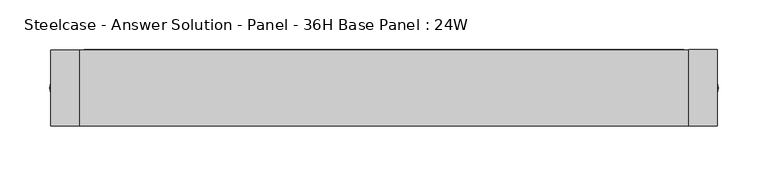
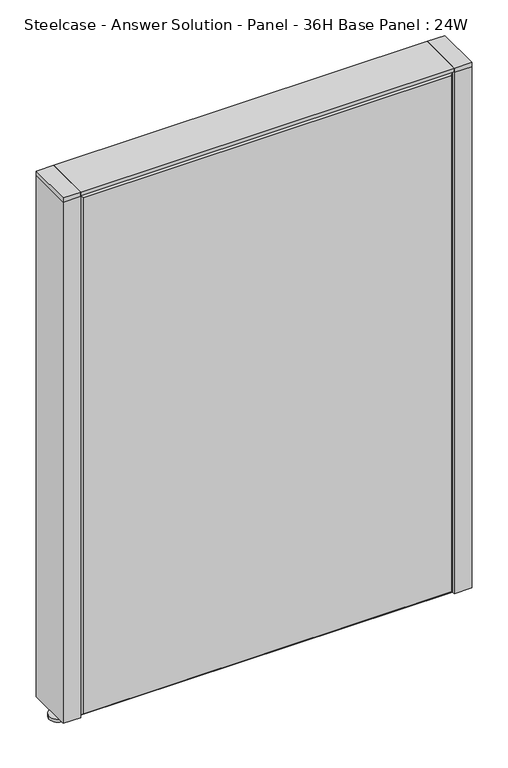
"""IFC4 building model written with IfcOpenShell, lengths in millimetres: furniture geometry, Steelcase - Answer Solution - Panel - 36H Base Panel : 24W."""

from ifc_helpers import new_model, si_unit, point, frame, frame_2d, origin, place, context, project, spatial, polyline, circle_curve, trimmed, segment, composite_curve, outline, extrude, faceted_brep, source, transform, mapped, element, save


def steelcase_answer_solution_panel_36h_base_panel_24w_c0e17bf1(model_context):
    return source(origin(), model_context, "Body", "SolidModel", [
        extrude(outline(composite_curve([segment(trimmed(circle_curve(frame_2d((319.024, 0.0320214)), 5.08), [point((324.104, 0.0320214))], [point((313.944, 0.0320214))], False, "CARTESIAN"), True, "CONTINUOUS"), segment(trimmed(circle_curve(frame_2d((319.024, 0.0320214)), 5.08), [point((313.944, 0.0320214))], [point((324.104, 0.0320214))], False, "CARTESIAN"), True, "CONTINUOUS")], self_intersect=False)), frame((0.0, 0.0, 5.0799671), z_axis=(0.0, 0.0, 1.0), x_axis=(1.0, 0.0, 0.0)), (0.0, 0.0, 1.0), 10.414),
        extrude(outline(composite_curve([segment(trimmed(circle_curve(frame_2d((319.024, 0.0320214)), 15.24), [point((334.264, 0.0320214))], [point((303.784, 0.0320214))], False, "CARTESIAN"), True, "CONTINUOUS"), segment(trimmed(circle_curve(frame_2d((319.024, 0.0320214)), 15.24), [point((303.784, 0.0320214))], [point((334.264, 0.0320214))], False, "CARTESIAN"), True, "CONTINUOUS")], self_intersect=False)), frame((0.0, 0.0, -3.29e-05), z_axis=(0.0, 0.0, 1.0), x_axis=(1.0, 0.0, 0.0)), (0.0, 0.0, 1.0), 5.08),
        extrude(outline(polyline([(333.375, 38.1320408), (333.375, -38.0679592), (304.8, -38.0679592), (304.8, 38.1320408), (333.375, 38.1320408)])), frame((0.0, 0.0, 913.4348), z_axis=(0.0, 0.0, 1.0), x_axis=(1.0, 0.0, 0.0)), (0.0, 0.0, 1.0), 7.3151671),
        extrude(outline(polyline([(333.375, 38.1320408), (333.375, -38.0679592), (304.8, -38.0679592), (304.8, 38.1320408), (333.375, 38.1320408)])), frame((0.0, 0.0, 15.4939671), z_axis=(0.0, 0.0, 1.0), x_axis=(1.0, 0.0, 0.0)), (0.0, 0.0, 1.0), 897.9408329),
        extrude(outline(composite_curve([segment(trimmed(circle_curve(frame_2d((-319.024, -0.0320214)), 5.08), [point((-324.104, -0.0320214))], [point((-313.944, -0.0320214))], False, "CARTESIAN"), True, "CONTINUOUS"), segment(trimmed(circle_curve(frame_2d((-319.024, -0.0320214)), 5.08), [point((-313.944, -0.0320214))], [point((-324.104, -0.0320214))], False, "CARTESIAN"), True, "CONTINUOUS")], self_intersect=False)), frame((0.0, 0.0, 5.0799671), z_axis=(0.0, 0.0, 1.0), x_axis=(1.0, 0.0, 0.0)), (0.0, 0.0, 1.0), 10.414),
        extrude(outline(composite_curve([segment(trimmed(circle_curve(frame_2d((-319.024, -0.0320214)), 15.24), [point((-334.264, -0.0320214))], [point((-303.784, -0.0320214))], False, "CARTESIAN"), True, "CONTINUOUS"), segment(trimmed(circle_curve(frame_2d((-319.024, -0.0320214)), 15.24), [point((-303.784, -0.0320214))], [point((-334.264, -0.0320214))], False, "CARTESIAN"), True, "CONTINUOUS")], self_intersect=False)), frame((0.0, 0.0, -3.29e-05), z_axis=(0.0, 0.0, 1.0), x_axis=(1.0, 0.0, 0.0)), (0.0, 0.0, 1.0), 5.08),
        extrude(outline(polyline([(-333.375, -38.1320408), (-333.375, 38.0679592), (-304.8, 38.0679592), (-304.8, -38.1320408), (-333.375, -38.1320408)])), frame((0.0, 0.0, 913.4348), z_axis=(0.0, 0.0, 1.0), x_axis=(1.0, 0.0, 0.0)), (0.0, 0.0, 1.0), 7.3151671),
        extrude(outline(polyline([(-333.375, -38.1320408), (-333.375, 38.0679592), (-304.8, 38.0679592), (-304.8, -38.1320408), (-333.375, -38.1320408)])), frame((0.0, 0.0, 15.4939671), z_axis=(0.0, 0.0, 1.0), x_axis=(1.0, 0.0, 0.0)), (0.0, 0.0, 1.0), 897.9408329),
        faceted_brep([(299.974, 38.1635011, 909.574), (299.974, 38.1635011, 20.32), (-299.974, 38.1635011, 20.32), (-299.974, 38.1635011, 909.574), (304.8, 33.3375011, 914.4), (-304.8, 33.3375011, 914.4), (-304.8, 33.3375011, 15.494), (304.8, 33.3375011, 15.494)], [[[0, 1, 2, 3]], [[4, 5, 6, 7]], [[4, 0, 3, 5]], [[5, 3, 2, 6]], [[6, 2, 1, 7]], [[7, 1, 0, 4]]]),
        faceted_brep([(299.974, -38.1635011, 909.574), (-299.974, -38.1635011, 909.574), (-299.974, -38.1635011, 20.32), (299.974, -38.1635011, 20.32), (304.8, -33.3375011, 914.4), (304.8, -33.3375011, 15.494), (-304.8, -33.3375011, 15.494), (-304.8, -33.3375011, 914.4)], [[[0, 1, 2, 3]], [[4, 5, 6, 7]], [[4, 7, 1, 0]], [[7, 6, 2, 1]], [[6, 5, 3, 2]], [[5, 4, 0, 3]]]),
        extrude(outline(polyline([(304.8, 38.1000194), (304.8, -38.1000194), (-304.8, -38.1000194), (-304.8, 38.1000194), (304.8, 38.1000194)])), frame((0.0, 0.0, 914.4), z_axis=(0.0, 0.0, 1.0), x_axis=(1.0, 0.0, 0.0)), (0.0, 0.0, 1.0), 6.35),
    ])


if __name__ == "__main__":
    model = new_model("IFC4")
    model_context = context("Model", 3, world=origin())
    ifc_project = project(units=[si_unit("LENGTHUNIT", "METRE", prefix="MILLI")], contexts=[model_context])
    site = spatial("IfcSite", under=ifc_project)
    building = spatial("IfcBuilding", under=site)
    placement = place(None, origin())
    steelcase_answer_solution_panel_36h_base_panel_24w_shape = steelcase_answer_solution_panel_36h_base_panel_24w_c0e17bf1(model_context)
    element("IfcFurniture", 1, ObjectType="Steelcase - Answer Solution - Panel - 36H Base Panel : 24W", at=placement, inside=building, context=model_context, shape_type="MappedRepresentation", body=[
        mapped(steelcase_answer_solution_panel_36h_base_panel_24w_shape, transform((0.0, 0.0, 0.0), x_axis=(1.0, 0.0, 0.0), y_axis=(0.0, 1.0, 0.0), z_axis=(0.0, 0.0, 1.0))),
    ])
    save(model, "model.ifc")
